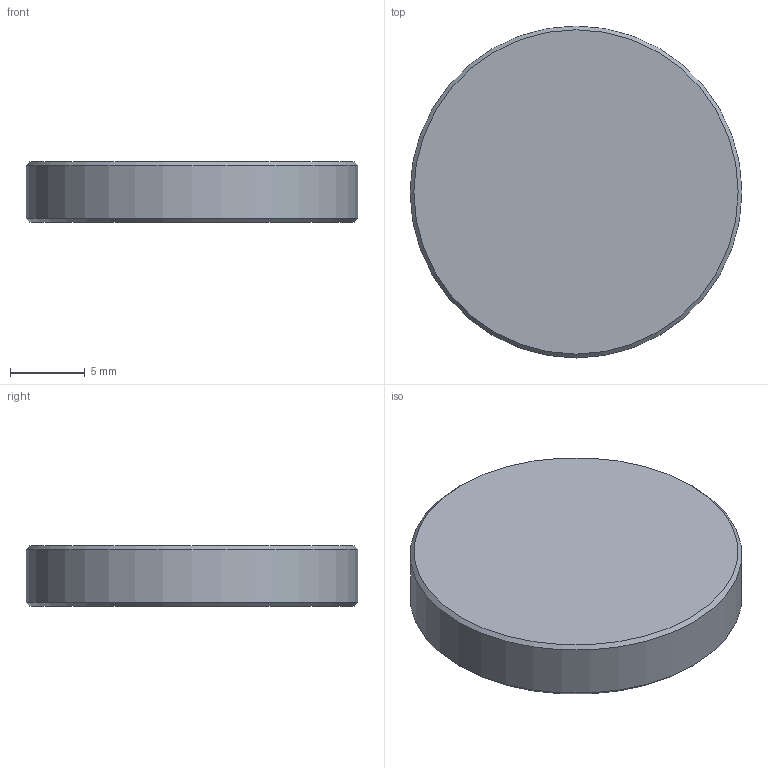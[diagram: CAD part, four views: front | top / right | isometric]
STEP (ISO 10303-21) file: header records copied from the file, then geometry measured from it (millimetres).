
FILE_DESCRIPTION(/* description */ ('Alibre Inc.'),/* implementation_level */ '2;1');
FILE_NAME(/* name */ 'export0',/* time_stamp */ '2016-06-23T08:52:50-07:00',/* author */ (''),/* organization */ (''),/* preprocessor_version */ 'ST-DEVELOPER v14',/* originating_system */ 'Alibre',/* authorisation */ '');
FILE_SCHEMA (('CONFIG_CONTROL_DESIGN'));
Length unit declared in the file: centimetre
Products named in the file (1): ID_1
Bounding box: 22.2 x 22.2 x 4.04 mm (x, y, z)
Volume: 1558.7 mm3; surface area: 1034.9 mm2
Topology: 1 solids, 1 shells, 5 faces, 7 edges, 4 vertices
Faces by surface type: cone 2, plane 2, cylinder 1
Full cylindrical faces by diameter (mm): 22.2 x1
Entity records: 177 total; most frequent: DIRECTION 16, CARTESIAN_POINT 13, AXIS2_PLACEMENT_3D 9, ORGANIZATION 8, PERSON 8, PERSON_AND_ORGANIZATION 8, ORIENTED_EDGE 8, EDGE_LOOP 8
